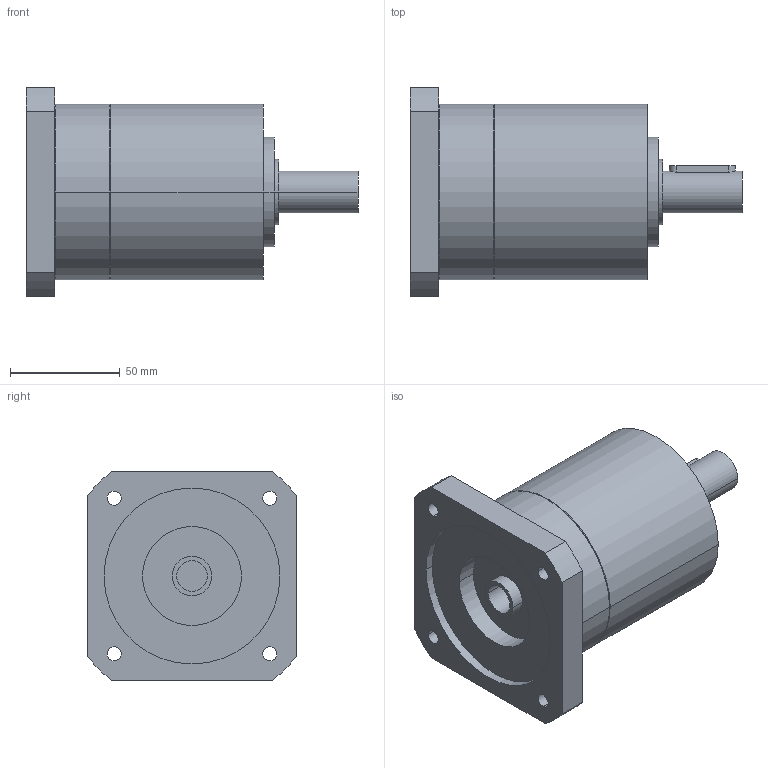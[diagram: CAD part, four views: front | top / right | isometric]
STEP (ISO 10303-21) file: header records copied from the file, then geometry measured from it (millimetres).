
FILE_DESCRIPTION(('CoCreate Modeling STEP Export'),'2;1');
FILE_NAME('GPR100_ig-3-4-5-6_19_B14_14_P06.stp','2014-08-26T10:07:05',(''),(''),'CoCreate Modeling STEP processor for AP214 (Solid Model)','CoCreate Modeling 16.00C 25-Feb-2009 (C) Parametric Technology GmbH','');
FILE_SCHEMA(('AUTOMOTIVE_DESIGN { 1 0 10303 214 1 1 1 1 }'));
Length unit declared in the file: millimetre
Products named in the file (2): GPR100_ig-3-4-5-6_19_B14_14_P06
Assembly tree (1 placements, depth 2):
  GPR100_ig-3-4-5-6_19_B14_14_P06
    GPR100_ig-3-4-5-6_19_B14_14_P06
Bounding box: 151 x 95 x 95 mm (x, y, z)
Volume: 572790 mm3; surface area: 55847.4 mm2
Topology: 1 solids, 1 shells, 70 faces, 189 edges, 133 vertices
Faces by surface type: cylinder 42, plane 22, cone 6
Entity records: 1944 total; most frequent: ORIENTED_EDGE 374, CARTESIAN_POINT 361, DIRECTION 262, EDGE_CURVE 187, VERTEX_POINT 133, AXIS2_PLACEMENT_3D 98, EDGE_LOOP 92, FACE_OUTER_BOUND 70
